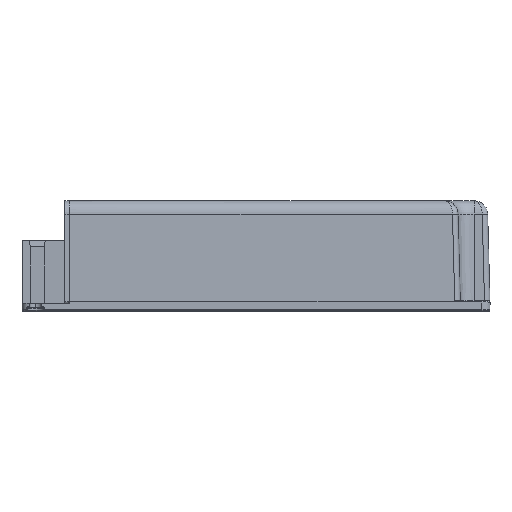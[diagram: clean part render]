
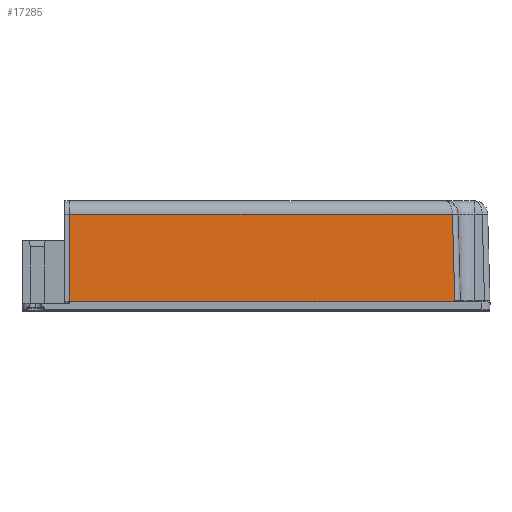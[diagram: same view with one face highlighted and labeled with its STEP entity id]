
A CAD part, top view. The second image highlights one B-rep face of the part: STEP entity #17285.
In plain terms, the highlighted planar face has unit normal (0, 0.026, 1).
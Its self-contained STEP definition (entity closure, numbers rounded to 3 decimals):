
#216 = DIRECTION ( 'NONE',  ( 0., 1., -0.026 ) ) ;
#490 = CARTESIAN_POINT ( 'NONE',  ( 71.127, 3.295, 49.998 ) ) ;
#533 = EDGE_CURVE ( 'NONE', #11596, #1289, #14006, .T. ) ;
#1282 = CARTESIAN_POINT ( 'NONE',  ( 72.185, 3.784, 49.985 ) ) ;
#1289 = VERTEX_POINT ( 'NONE', #26065 ) ;
#1812 = DIRECTION ( 'NONE',  ( 1., 0., 0. ) ) ;
#1976 = EDGE_CURVE ( 'NONE', #18733, #2556, #20534, .T. ) ;
#2544 = CARTESIAN_POINT ( 'NONE',  ( 79.2, 3.2, 50. ) ) ;
#2556 = VERTEX_POINT ( 'NONE', #1282 ) ;
#5014 = EDGE_CURVE ( 'NONE', #2556, #17151, #14924, .T. ) ;
#5201 = EDGE_CURVE ( 'NONE', #17151, #1289, #13437, .T. ) ;
#5398 = CARTESIAN_POINT ( 'NONE',  ( 71.261, 3.34, 49.996 ) ) ;
#5518 = CARTESIAN_POINT ( 'NONE',  ( 71.363, 3.379, 49.995 ) ) ;
#5925 = CARTESIAN_POINT ( 'NONE',  ( -67.699, 3.2, 50. ) ) ;
#6947 = CARTESIAN_POINT ( 'NONE',  ( 71.458, 3.418, 49.994 ) ) ;
#7323 = CARTESIAN_POINT ( 'NONE',  ( 70.669, 3.2, 50. ) ) ;
#8166 = CARTESIAN_POINT ( 'NONE',  ( 71.365, 35.131, 49.164 ) ) ;
#8359 = CARTESIAN_POINT ( 'NONE',  ( 71.794, 3.576, 49.99 ) ) ;
#9237 = CARTESIAN_POINT ( 'NONE',  ( 71.766, 3.561, 49.991 ) ) ;
#9358 = CARTESIAN_POINT ( 'NONE',  ( 72.205, 3.017, 50.005 ) ) ;
#9805 = DIRECTION ( 'NONE',  ( -0.026, 0.999, -0.026 ) ) ;
#10865 = CARTESIAN_POINT ( 'NONE',  ( 70.871, 3.224, 49.999 ) ) ;
#11596 = VERTEX_POINT ( 'NONE', #21127 ) ;
#11685 = EDGE_CURVE ( 'NONE', #11596, #18733, #26106, .T. ) ;
#12419 = FACE_OUTER_BOUND ( 'NONE', #12566, .T. ) ;
#12458 = ORIENTED_EDGE ( 'NONE', *, *, #11685, .T. ) ;
#12566 = EDGE_LOOP ( 'NONE', ( #12458, #26816, #20504, #26089, #27416 ) ) ;
#12982 = PLANE ( 'NONE',  #29039 ) ;
#13088 = CARTESIAN_POINT ( 'NONE',  ( 71.788, 3.573, 49.99 ) ) ;
#13437 = LINE ( 'NONE', #18002, #26024 ) ;
#14006 = LINE ( 'NONE', #5925, #20240 ) ;
#14702 = CARTESIAN_POINT ( 'NONE',  ( 71.329, 3.366, 49.996 ) ) ;
#14924 = LINE ( 'NONE', #9358, #26742 ) ;
#15076 = CARTESIAN_POINT ( 'NONE',  ( 71.889, 3.624, 49.989 ) ) ;
#15541 = CARTESIAN_POINT ( 'NONE',  ( 71.734, 3.546, 49.991 ) ) ;
#17151 = VERTEX_POINT ( 'NONE', #8166 ) ;
#17285 = ADVANCED_FACE ( 'NONE', ( #12419 ), #12982, .T. ) ;
#17433 = CARTESIAN_POINT ( 'NONE',  ( 71.779, 3.568, 49.99 ) ) ;
#17644 = CARTESIAN_POINT ( 'NONE',  ( 71.673, 3.515, 49.992 ) ) ;
#18002 = CARTESIAN_POINT ( 'NONE',  ( -67.699, 35.131, 49.164 ) ) ;
#18733 = VERTEX_POINT ( 'NONE', #20127 ) ;
#19736 = VECTOR ( 'NONE', #1812, 1000. ) ;
#19966 = CARTESIAN_POINT ( 'NONE',  ( 72.019, 3.693, 49.987 ) ) ;
#20127 = CARTESIAN_POINT ( 'NONE',  ( 70.542, 3.2, 50. ) ) ;
#20240 = VECTOR ( 'NONE', #216, 1000. ) ;
#20504 = ORIENTED_EDGE ( 'NONE', *, *, #5014, .T. ) ;
#20534 = B_SPLINE_CURVE_WITH_KNOTS ( 'NONE', 3,
 ( #21346, #7323, #10865, #490, #5398, #14702, #5518, #28198, #20624, #22434, #6947, #24104, #17644, #15541, #9237, #17433, #13088, #8359, #15076, #19966, #23732 ),
 .UNSPECIFIED., .F., .F.,
 ( 4, 1, 1, 1, 1, 1, 2, 2, 1, 1, 1, 1, 2, 2, 4 ),
 ( 0., 0.25, 0.375, 0.438, 0.469, 0.484, 0.492, 0.5, 0.625, 0.688, 0.719, 0.734, 0.742, 0.75, 1. ),
 .UNSPECIFIED. ) ;
#20624 = CARTESIAN_POINT ( 'NONE',  ( 71.388, 3.389, 49.995 ) ) ;
#21127 = CARTESIAN_POINT ( 'NONE',  ( -67.699, 3.2, 50. ) ) ;
#21346 = CARTESIAN_POINT ( 'NONE',  ( 70.542, 3.2, 50. ) ) ;
#22434 = CARTESIAN_POINT ( 'NONE',  ( 71.394, 3.392, 49.995 ) ) ;
#23732 = CARTESIAN_POINT ( 'NONE',  ( 72.185, 3.784, 49.985 ) ) ;
#24104 = CARTESIAN_POINT ( 'NONE',  ( 71.554, 3.459, 49.993 ) ) ;
#26024 = VECTOR ( 'NONE', #27280, 1000. ) ;
#26065 = CARTESIAN_POINT ( 'NONE',  ( -67.699, 35.131, 49.164 ) ) ;
#26089 = ORIENTED_EDGE ( 'NONE', *, *, #5201, .T. ) ;
#26106 = LINE ( 'NONE', #2544, #19736 ) ;
#26742 = VECTOR ( 'NONE', #9805, 1000. ) ;
#26816 = ORIENTED_EDGE ( 'NONE', *, *, #1976, .T. ) ;
#27280 = DIRECTION ( 'NONE',  ( -1., 0., 0. ) ) ;
#27379 = DIRECTION ( 'NONE',  ( 0., -1., 0.026 ) ) ;
#27416 = ORIENTED_EDGE ( 'NONE', *, *, #533, .F. ) ;
#27439 = DIRECTION ( 'NONE',  ( 0., 0.026, 1. ) ) ;
#28198 = CARTESIAN_POINT ( 'NONE',  ( 71.378, 3.385, 49.995 ) ) ;
#28766 = CARTESIAN_POINT ( 'NONE',  ( 79.2, 3.2, 50. ) ) ;
#29039 = AXIS2_PLACEMENT_3D ( 'NONE', #28766, #27439, #27379 ) ;
